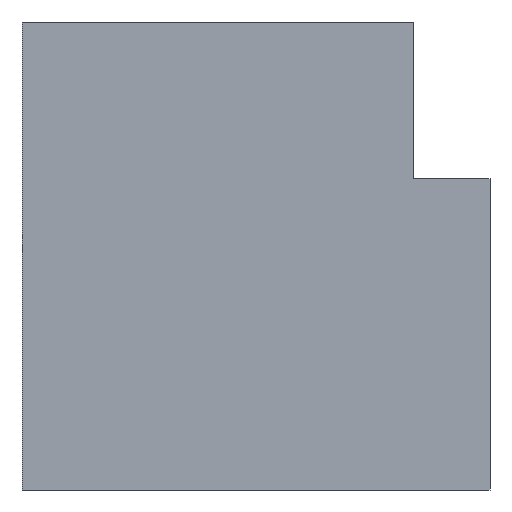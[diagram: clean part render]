
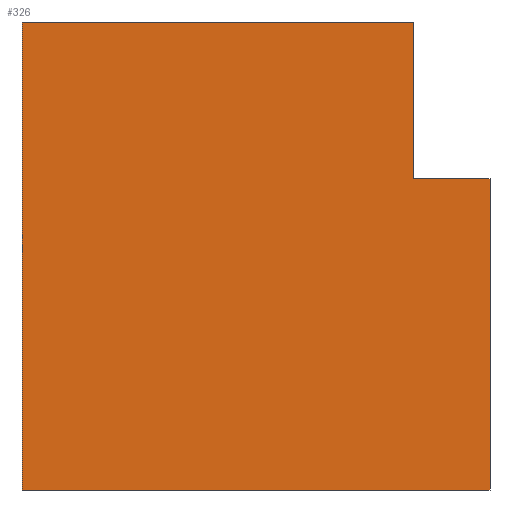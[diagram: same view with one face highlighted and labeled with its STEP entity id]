
A CAD part, front view. The second image highlights one B-rep face of the part: STEP entity #326.
In plain terms, the highlighted planar face has unit normal (0, -1, 0).
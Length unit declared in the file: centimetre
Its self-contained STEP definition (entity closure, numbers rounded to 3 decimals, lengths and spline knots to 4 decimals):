
#6 = DIRECTION ( 'NONE',  ( 0., 0., -1. ) ) ;
#19 = DIRECTION ( 'NONE',  ( 0., 0., 1. ) ) ;
#21 = CARTESIAN_POINT ( 'NONE',  ( 0., 0., 1000. ) ) ;
#25 = VERTEX_POINT ( 'NONE', #218 ) ;
#27 = DIRECTION ( 'NONE',  ( 1., 0., 0. ) ) ;
#41 = EDGE_CURVE ( 'NONE', #155, #142, #327, .T. ) ;
#43 = CARTESIAN_POINT ( 'NONE',  ( 1000., 0., 1000. ) ) ;
#49 = VECTOR ( 'NONE', #65, 100. ) ;
#54 = VERTEX_POINT ( 'NONE', #274 ) ;
#59 = CARTESIAN_POINT ( 'NONE',  ( 1000., 0., 0. ) ) ;
#61 = ORIENTED_EDGE ( 'NONE', *, *, #94, .F. ) ;
#62 = AXIS2_PLACEMENT_3D ( 'NONE', #21, #228, #19 ) ;
#65 = DIRECTION ( 'NONE',  ( 1., 0., 0. ) ) ;
#77 = DIRECTION ( 'NONE',  ( 1., 0., 0. ) ) ;
#84 = VERTEX_POINT ( 'NONE', #245 ) ;
#88 = DIRECTION ( 'NONE',  ( 0., 0., -1. ) ) ;
#94 = EDGE_CURVE ( 'NONE', #197, #155, #190, .T. ) ;
#106 = FACE_OUTER_BOUND ( 'NONE', #128, .T. ) ;
#107 = EDGE_CURVE ( 'NONE', #54, #197, #238, .T. ) ;
#109 = PLANE ( 'NONE',  #62 ) ;
#111 = ORIENTED_EDGE ( 'NONE', *, *, #41, .F. ) ;
#113 = CARTESIAN_POINT ( 'NONE',  ( 1000., 0., 665.1063 ) ) ;
#128 = EDGE_LOOP ( 'NONE', ( #61, #287, #256, #265, #313, #111 ) ) ;
#142 = VERTEX_POINT ( 'NONE', #59 ) ;
#155 = VERTEX_POINT ( 'NONE', #113 ) ;
#162 = EDGE_CURVE ( 'NONE', #84, #54, #296, .T. ) ;
#174 = VECTOR ( 'NONE', #27, 100. ) ;
#190 = LINE ( 'NONE', #325, #49 ) ;
#195 = LINE ( 'NONE', #284, #288 ) ;
#197 = VERTEX_POINT ( 'NONE', #264 ) ;
#218 = CARTESIAN_POINT ( 'NONE',  ( 0., 0., 0. ) ) ;
#225 = DIRECTION ( 'NONE',  ( 0., 0., -1. ) ) ;
#226 = VECTOR ( 'NONE', #77, 100. ) ;
#228 = DIRECTION ( 'NONE',  ( 0., 1., 0. ) ) ;
#233 = VECTOR ( 'NONE', #6, 100. ) ;
#236 = CARTESIAN_POINT ( 'NONE',  ( 0., 0., 1000. ) ) ;
#238 = LINE ( 'NONE', #267, #295 ) ;
#245 = CARTESIAN_POINT ( 'NONE',  ( 0., 0., 1000. ) ) ;
#256 = ORIENTED_EDGE ( 'NONE', *, *, #162, .F. ) ;
#264 = CARTESIAN_POINT ( 'NONE',  ( 837.4735, 0., 665.1063 ) ) ;
#265 = ORIENTED_EDGE ( 'NONE', *, *, #291, .T. ) ;
#267 = CARTESIAN_POINT ( 'NONE',  ( 837.4735, 0., 665.1063 ) ) ;
#274 = CARTESIAN_POINT ( 'NONE',  ( 837.4735, 0., 1000. ) ) ;
#283 = CARTESIAN_POINT ( 'NONE',  ( 0., 0., 0. ) ) ;
#284 = CARTESIAN_POINT ( 'NONE',  ( 0., 0., 1000. ) ) ;
#287 = ORIENTED_EDGE ( 'NONE', *, *, #107, .F. ) ;
#288 = VECTOR ( 'NONE', #225, 100. ) ;
#291 = EDGE_CURVE ( 'NONE', #84, #25, #195, .T. ) ;
#295 = VECTOR ( 'NONE', #88, 100. ) ;
#296 = LINE ( 'NONE', #236, #174 ) ;
#301 = EDGE_CURVE ( 'NONE', #25, #142, #335, .T. ) ;
#313 = ORIENTED_EDGE ( 'NONE', *, *, #301, .T. ) ;
#325 = CARTESIAN_POINT ( 'NONE',  ( 837.4735, 0., 665.1063 ) ) ;
#326 = ADVANCED_FACE ( 'NONE', ( #106 ), #109, .F. ) ;
#327 = LINE ( 'NONE', #43, #233 ) ;
#335 = LINE ( 'NONE', #283, #226 ) ;
